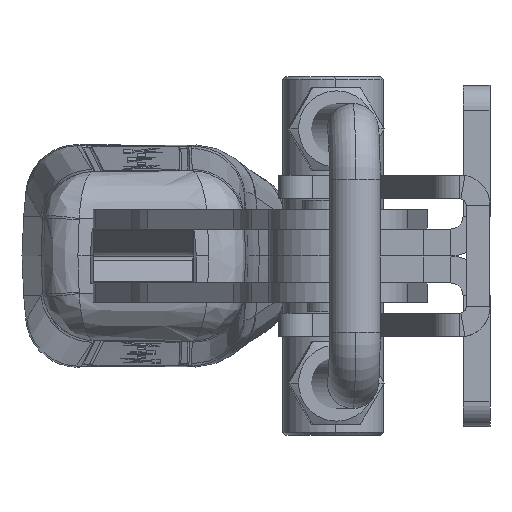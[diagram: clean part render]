
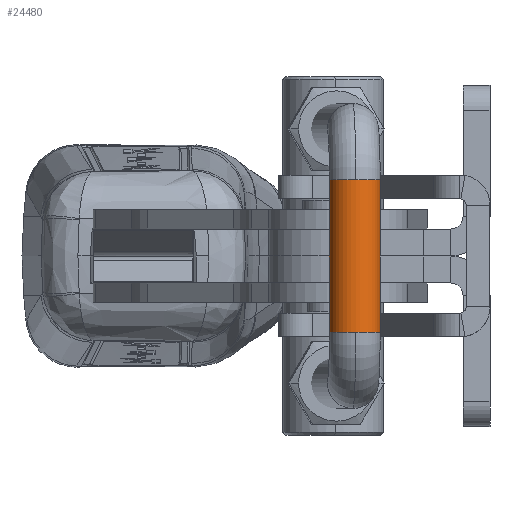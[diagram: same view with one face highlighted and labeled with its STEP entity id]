
A CAD part, left-side view. The second image highlights one B-rep face of the part: STEP entity #24480.
In plain terms, the highlighted cylindrical face has radius 4 mm (diameter 8 mm), a partial arc.
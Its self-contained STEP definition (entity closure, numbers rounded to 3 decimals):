
#608 = CARTESIAN_POINT ( 'NONE',  ( 12., 134., 0. ) ) ;
#754 = CARTESIAN_POINT ( 'NONE',  ( -12., 130., -4. ) ) ;
#904 = ORIENTED_EDGE ( 'NONE', *, *, #8513, .T. ) ;
#1068 = DIRECTION ( 'NONE',  ( 1., 0., 0. ) ) ;
#1530 = CIRCLE ( 'NONE', #20669, 4. ) ;
#3229 = DIRECTION ( 'NONE',  ( 1., 0., 0. ) ) ;
#3630 = AXIS2_PLACEMENT_3D ( 'NONE', #9472, #22929, #11418 ) ;
#5220 = VERTEX_POINT ( 'NONE', #23058 ) ;
#5644 = ORIENTED_EDGE ( 'NONE', *, *, #7847, .T. ) ;
#6033 = LINE ( 'NONE', #10417, #15089 ) ;
#6496 = DIRECTION ( 'NONE',  ( 1., 0., 0. ) ) ;
#7086 = DIRECTION ( 'NONE',  ( 1., 0., 0. ) ) ;
#7160 = AXIS2_PLACEMENT_3D ( 'NONE', #22780, #11273, #24742 ) ;
#7266 = VERTEX_POINT ( 'NONE', #8124 ) ;
#7824 = FACE_OUTER_BOUND ( 'NONE', #23248, .T. ) ;
#7847 = EDGE_CURVE ( 'NONE', #9055, #7266, #1530, .T. ) ;
#8124 = CARTESIAN_POINT ( 'NONE',  ( -12., 130., 4. ) ) ;
#8513 = EDGE_CURVE ( 'NONE', #7266, #13779, #21927, .T. ) ;
#8673 = CARTESIAN_POINT ( 'NONE',  ( -12., 130., 4. ) ) ;
#8713 = EDGE_CURVE ( 'NONE', #5220, #10004, #13818, .T. ) ;
#9055 = VERTEX_POINT ( 'NONE', #12884 ) ;
#9173 = EDGE_CURVE ( 'NONE', #10004, #13779, #22502, .T. ) ;
#9472 = CARTESIAN_POINT ( 'NONE',  ( 12., 130., 0. ) ) ;
#9931 = ORIENTED_EDGE ( 'NONE', *, *, #8713, .F. ) ;
#10004 = VERTEX_POINT ( 'NONE', #608 ) ;
#10251 = ORIENTED_EDGE ( 'NONE', *, *, #10794, .F. ) ;
#10417 = CARTESIAN_POINT ( 'NONE',  ( -12., 130., -4. ) ) ;
#10707 = AXIS2_PLACEMENT_3D ( 'NONE', #18253, #7086, #20532 ) ;
#10794 = EDGE_CURVE ( 'NONE', #23084, #5220, #6033, .T. ) ;
#10939 = DIRECTION ( 'NONE',  ( 0., 0., -1. ) ) ;
#11016 = CIRCLE ( 'NONE', #10707, 4. ) ;
#11107 = AXIS2_PLACEMENT_3D ( 'NONE', #22440, #3229, #10939 ) ;
#11273 = DIRECTION ( 'NONE',  ( 1., 0., 0. ) ) ;
#11418 = DIRECTION ( 'NONE',  ( 0., 0., 1. ) ) ;
#11490 = ORIENTED_EDGE ( 'NONE', *, *, #9173, .F. ) ;
#12884 = CARTESIAN_POINT ( 'NONE',  ( -12., 134., 0. ) ) ;
#13779 = VERTEX_POINT ( 'NONE', #17852 ) ;
#13818 = CIRCLE ( 'NONE', #7160, 4. ) ;
#15089 = VECTOR ( 'NONE', #22008, 1000. ) ;
#16232 = VECTOR ( 'NONE', #1068, 1000. ) ;
#17823 = EDGE_CURVE ( 'NONE', #23084, #9055, #11016, .T. ) ;
#17852 = CARTESIAN_POINT ( 'NONE',  ( 12., 130., 4. ) ) ;
#18016 = CARTESIAN_POINT ( 'NONE',  ( -12., 130., 0. ) ) ;
#18253 = CARTESIAN_POINT ( 'NONE',  ( -12., 130., 0. ) ) ;
#19937 = DIRECTION ( 'NONE',  ( 0., 0., 1. ) ) ;
#20532 = DIRECTION ( 'NONE',  ( 0., 0., 1. ) ) ;
#20669 = AXIS2_PLACEMENT_3D ( 'NONE', #18016, #6496, #19937 ) ;
#21927 = LINE ( 'NONE', #8673, #16232 ) ;
#22008 = DIRECTION ( 'NONE',  ( 1., 0., 0. ) ) ;
#22440 = CARTESIAN_POINT ( 'NONE',  ( -12., 130., 0. ) ) ;
#22502 = CIRCLE ( 'NONE', #3630, 4. ) ;
#22553 = CYLINDRICAL_SURFACE ( 'NONE', #11107, 4. ) ;
#22780 = CARTESIAN_POINT ( 'NONE',  ( 12., 130., 0. ) ) ;
#22929 = DIRECTION ( 'NONE',  ( 1., 0., 0. ) ) ;
#23058 = CARTESIAN_POINT ( 'NONE',  ( 12., 130., -4. ) ) ;
#23084 = VERTEX_POINT ( 'NONE', #754 ) ;
#23248 = EDGE_LOOP ( 'NONE', ( #24683, #5644, #904, #11490, #9931, #10251 ) ) ;
#24480 = ADVANCED_FACE ( 'NONE', ( #7824 ), #22553, .T. ) ;
#24683 = ORIENTED_EDGE ( 'NONE', *, *, #17823, .T. ) ;
#24742 = DIRECTION ( 'NONE',  ( 0., 0., 1. ) ) ;
